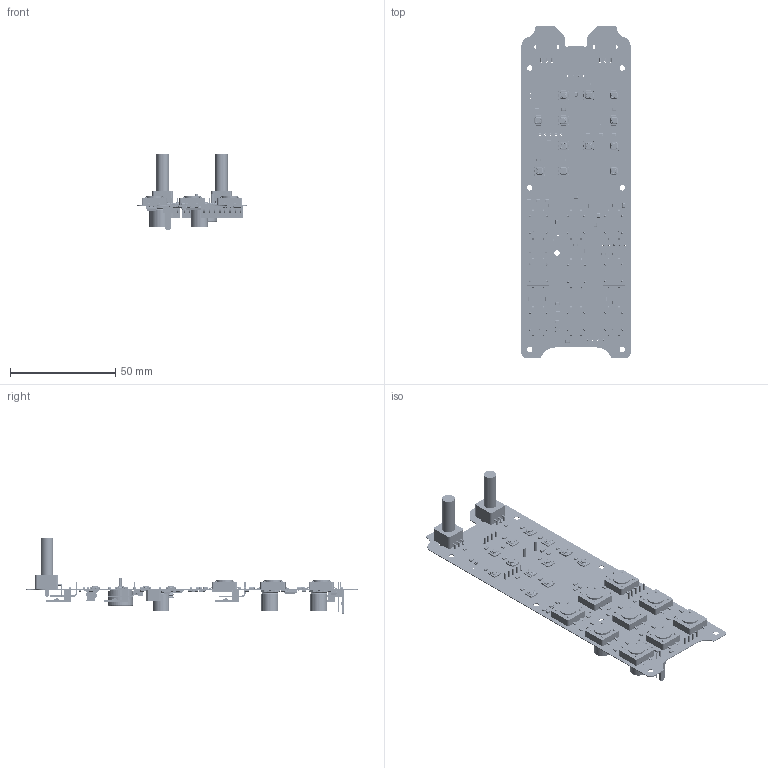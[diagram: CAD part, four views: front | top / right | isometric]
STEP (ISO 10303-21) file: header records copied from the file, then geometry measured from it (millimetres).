
FILE_DESCRIPTION(('Open CASCADE Model'),'2;1');
FILE_NAME('Open CASCADE Shape Model','2016-12-07T20:24:24',('Author'),( 'Open CASCADE'),'Open CASCADE STEP processor 6.8','Open CASCADE 6.8' ,'Unknown');
FILE_SCHEMA(('AUTOMOTIVE_DESIGN { 1 0 10303 214 1 1 1 1 }'));
Length unit declared in the file: millimetre
Products named in the file (223): PCB; Board; R48; SW3dPS-0603_SMD_Resistor; R47; D2; SW3dPS-DO-214AC_SMA; C29; SW3dPS-0805_SMD_Capacitor; C28; User_Library-ALU-F; User_Library-ALU-F_Pins_1; User_Library-ALU-F_K_X_F6rper_1; User_Library-ALU-F_Beschriftung_1; User_Library-ALU-F_Fuss_1; L1; 979583952; Extruded; IC2; ROF-78E5.0; DCS-402_REV-B_PCB; SD5230D1M-series; IC-TPS5401; \X2\4E8C69759AD4\X0\(SS1020FL~SS10100FL); 1206-\X2\8CBC72475F0F96FB5BB9\X0\; 0603-\X2\8CBC72475F0F96FB5BB9\X0\; 0402-\X2\8CBC72475F0F96FB7D44\X0\; 0402-\X2\8CBC72475F0F96FB5BB9\X0\; C27; C26; R4; SW3dPS-0805_SMD_Resistor; R3; L4; B82790C0; R46; R23; S1; SW3dPS-001053; R22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
Assembly tree (377 placements, depth 4):
  PCB
    Board
    R48
      SW3dPS-0603_SMD_Resistor
    R47
      SW3dPS-0603_SMD_Resistor
    D2
      SW3dPS-DO-214AC_SMA
    C29
      SW3dPS-0805_SMD_Capacitor
    C28
      User_Library-ALU-F
        User_Library-ALU-F_Pins_1
        User_Library-ALU-F_K_X_F6rper_1
        User_Library-ALU-F_Beschriftung_1
        User_Library-ALU-F_Fuss_1
    L1
      979583952
        Extruded
    IC2
      ROF-78E5.0
        DCS-402_REV-B_PCB
        SD5230D1M-series
        IC-TPS5401
        \X2\4E8C69759AD4\X0\(SS1020FL~SS10100FL)
        1206-\X2\8CBC72475F0F96FB5BB9\X0\  x2
        0603-\X2\8CBC72475F0F96FB5BB9\X0\  x2
        0402-\X2\8CBC72475F0F96FB7D44\X0\  x5
        0402-\X2\8CBC72475F0F96FB5BB9\X0\  x4
    C27
      SW3dPS-0805_SMD_Capacitor
    C26
      SW3dPS-0805_SMD_Capacitor
    R4
      SW3dPS-0805_SMD_Resistor
    R3
      SW3dPS-0805_SMD_Resistor
    L4
      B82790C0
    R46
      SW3dPS-0603_SMD_Resistor
    R23
      SW3dPS-0603_SMD_Resistor
    S1
      SW3dPS-001053
    R22
      SW3dPS-1206_SMD_Resistor
    R21
      SW3dPS-1206_SMD_Resistor
    R18
      SW3dPS-0805_SMD_Resistor
    J5
      22-05-7058
      22-05-7058
      22-05-7058
      22-05-7058
      22-05-7058
      22-05-7058
      22-05-7058
      22-05-7058
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Bounding box: 52 x 158 x 36.64 mm (x, y, z)
Volume: 15742 mm3; surface area: 31409.8 mm2
Topology: 277 solids, 277 shells, 18821 faces, 47084 edges, 28646 vertices
Faces by surface type: plane 8376, cylinder 4671, bspline 4176, sphere 804, torus 578, revolution 144, cone 72
Full cylindrical faces by diameter (mm): 0.762 x2, 0.8 x2, 0.889 x21, 1.016 x6, 2.6 x7, 4.8 x1, 6.1 x2
Entity records: 497090 total; most frequent: CARTESIAN_POINT 237137, DIRECTION 38642, LINE 24617, VECTOR 24617, ORIENTED_EDGE 24294, PCURVE 24294, DEFINITIONAL_REPRESENTATION 24294, EDGE_CURVE 12147
